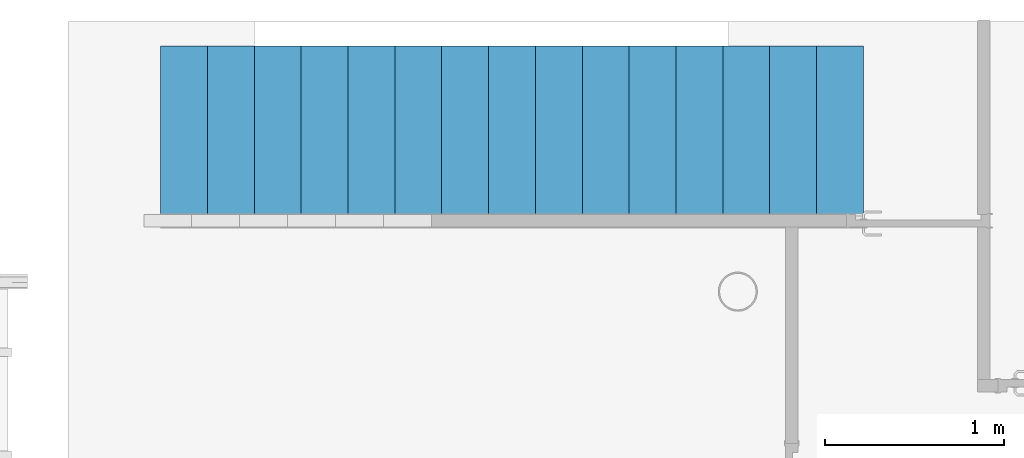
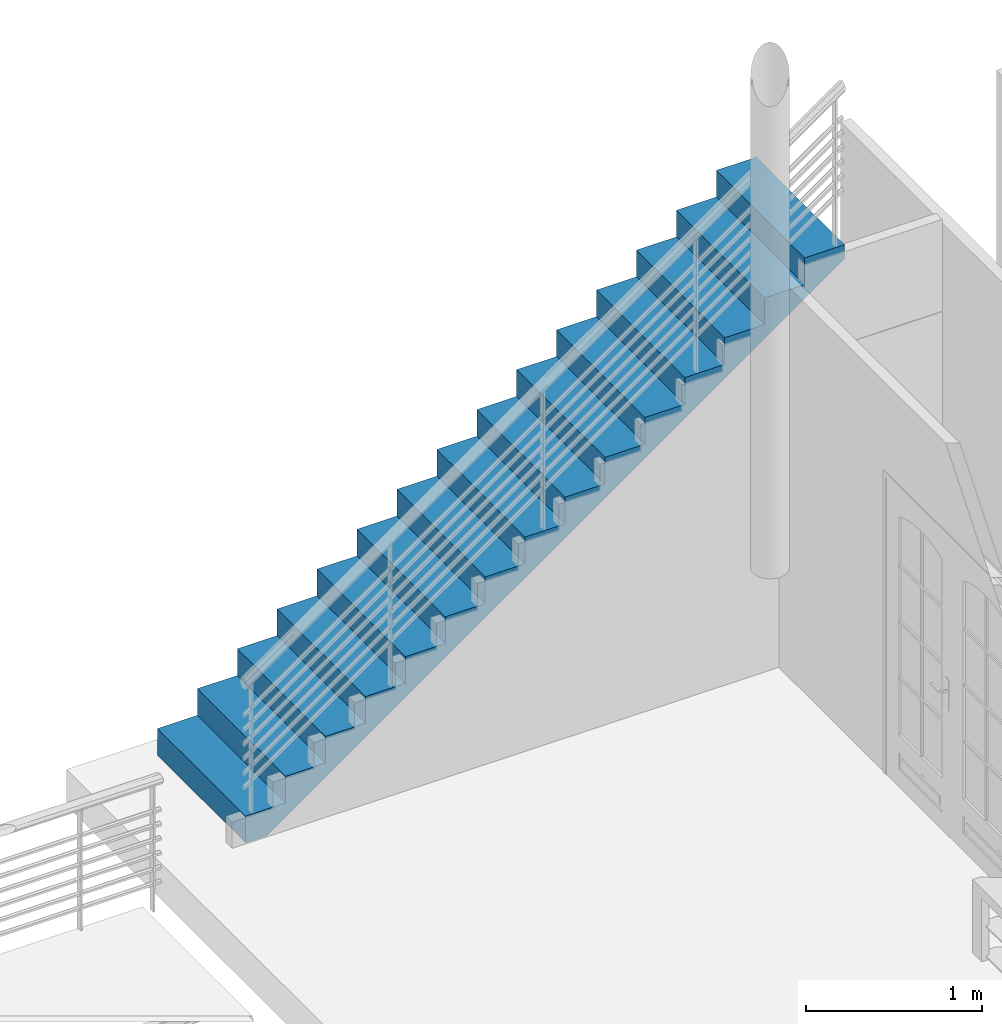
# One storey, part 10 of 15: 1 stair flight, 1 element without a shape of its own.
"""IFC2X3 building model written with IfcOpenShell, lengths in metres."""

from ifc_helpers import new_model, entity, si_unit, converted_unit, derived_unit, direction, frame, origin, place, context, subcontext, project, spatial, faceted_brep, material, type_object, element, aggregate, save


model = new_model("IFC2X3")

# Units and contexts
model_context = context("Model", 3, precision=1e-05, world=origin(), true_north=direction((6.12303176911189e-17, 1.0)))
body_context = subcontext(model_context, "Body", "Model", "MODEL_VIEW")
ifc_project = project(units=[si_unit("LENGTHUNIT", "METRE"), si_unit("AREAUNIT", "SQUARE_METRE"), si_unit("VOLUMEUNIT", "CUBIC_METRE"), converted_unit("PLANEANGLEUNIT", "DEGREE", entity("IfcRatioMeasure", 0.0174532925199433), si_unit("PLANEANGLEUNIT", "RADIAN"), dimensions=[0, 0, 0, 0, 0, 0, 0]), si_unit("MASSUNIT", "GRAM", prefix="KILO"), derived_unit("MASSDENSITYUNIT", [(si_unit("MASSUNIT", "GRAM", prefix="KILO"), 1), (si_unit("LENGTHUNIT", "METRE"), -3)]), derived_unit("MOMENTOFINERTIAUNIT", [(si_unit("LENGTHUNIT", "METRE"), 4)]), si_unit("TIMEUNIT", "SECOND"), si_unit("FREQUENCYUNIT", "HERTZ"), si_unit("THERMODYNAMICTEMPERATUREUNIT", "DEGREE_CELSIUS"), derived_unit("THERMALTRANSMITTANCEUNIT", [(si_unit("MASSUNIT", "GRAM", prefix="KILO"), 1), (si_unit("THERMODYNAMICTEMPERATUREUNIT", "KELVIN"), -1), (si_unit("TIMEUNIT", "SECOND"), -3)]), derived_unit("VOLUMETRICFLOWRATEUNIT", [(si_unit("LENGTHUNIT", "METRE"), 3), (si_unit("TIMEUNIT", "SECOND"), -1)]), si_unit("ELECTRICCURRENTUNIT", "AMPERE"), si_unit("ELECTRICVOLTAGEUNIT", "VOLT"), si_unit("POWERUNIT", "WATT"), si_unit("FORCEUNIT", "NEWTON", prefix="KILO"), si_unit("ILLUMINANCEUNIT", "LUX"), si_unit("LUMINOUSFLUXUNIT", "LUMEN"), si_unit("LUMINOUSINTENSITYUNIT", "CANDELA"), derived_unit("USERDEFINED", [(si_unit("MASSUNIT", "GRAM", prefix="KILO"), -1), (si_unit("LENGTHUNIT", "METRE"), -2), (si_unit("TIMEUNIT", "SECOND"), 3), (si_unit("LUMINOUSFLUXUNIT", "LUMEN"), 1)]), derived_unit("LINEARVELOCITYUNIT", [(si_unit("LENGTHUNIT", "METRE"), 1), (si_unit("TIMEUNIT", "SECOND"), -1)]), si_unit("PRESSUREUNIT", "PASCAL"), derived_unit("USERDEFINED", [(si_unit("LENGTHUNIT", "METRE"), -2), (si_unit("MASSUNIT", "GRAM", prefix="KILO"), 1), (si_unit("TIMEUNIT", "SECOND"), -2)]), derived_unit("LINEARFORCEUNIT", [(si_unit("MASSUNIT", "GRAM", prefix="KILO"), 1), (si_unit("LENGTHUNIT", "METRE"), 1), (si_unit("TIMEUNIT", "SECOND"), -2), (si_unit("LENGTHUNIT", "METRE"), -1)]), derived_unit("PLANARFORCEUNIT", [(si_unit("MASSUNIT", "GRAM", prefix="KILO"), 1), (si_unit("LENGTHUNIT", "METRE"), 1), (si_unit("TIMEUNIT", "SECOND"), -2), (si_unit("LENGTHUNIT", "METRE"), -2)])], contexts=[model_context])

# Site, building, storey
site_placement = place(None, origin())
site = spatial("IfcSite", under=ifc_project, at=site_placement, Name="Surface", CompositionType="ELEMENT")
building_placement = place(site_placement, origin())
building = spatial("IfcBuilding", under=site, at=building_placement, CompositionType="ELEMENT")
storey_placement = place(building_placement, frame((0.0, 0.0, 2.65)))
storey = spatial("IfcBuildingStorey", under=building, at=storey_placement, Name="Niveau étage", CompositionType="ELEMENT", Elevation=2.65)

# Stair, stair flight
stair_placement = place(storey_placement, origin())
stair = element("IfcStair", 1, at=stair_placement, inside=storey, Name="Escalier coulé sur place:Escalier", ObjectType="Escalier coulé sur place:Monobloc", ShapeType="STRAIGHT_RUN_STAIR")
ifc_material = material(Name="Maçonnerie - Béton")
stair_flight_type = type_object("IfcStairFlightType", Name="Volée monobloc:Profondeur de structure 80 mm", PredefinedType="STRAIGHT")
stair_flight_placement = place(stair_placement, frame((2.40601672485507, 5.86379665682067, 0.0)))
stair_flight = element("IfcStairFlight", 2, at=stair_flight_placement, type_object=stair_flight_type, material=ifc_material, Name="Escalier coulé sur place:Escalier:259242 Run 1", ObjectType="Volée monobloc:Profondeur de structure 80 mm", NumberOfRiser=16, NumberOfTreads=15, RiserHeight=0.604904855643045, TreadLength=0.857119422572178, context=body_context, shape_type="Brep", body=[
    faceted_brep([(0.26125, 1.0, 0.184375), (0.0, 1.0, 0.184375), (0.0, 0.0, 0.184375), (0.26125, 0.0, 0.184375), (0.26125, 1.0, 0.0864584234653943), (0.13874281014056, 1.0, 0.0), (0.0, 1.0, 0.0), (0.0, 0.0, 0.0), (0.13874281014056, 0.0, 0.0), (0.26125, 0.0, 0.0864584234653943), (0.5225, 1.0, 0.36875), (0.26125, 1.0, 0.36875), (0.26125, 0.0, 0.36875), (0.522499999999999, 0.0, 0.36875), (0.5225, 1.0, 0.270833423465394), (0.5225, 0.0, 0.270833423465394), (0.783749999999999, 1.0, 0.553125), (0.522499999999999, 1.0, 0.553125), (0.522499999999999, 0.0, 0.553125), (0.783749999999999, 0.0, 0.553125), (0.783749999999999, 1.0, 0.455208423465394), (0.783749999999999, 0.0, 0.455208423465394), (1.045, 1.0, 0.7375), (0.783749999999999, 1.0, 0.7375), (0.783749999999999, 0.0, 0.7375), (1.045, 0.0, 0.7375), (1.045, 1.0, 0.639583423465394), (1.045, 0.0, 0.639583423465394), (1.30625, 1.0, 0.921875), (1.045, 1.0, 0.921875), (1.045, 0.0, 0.921875), (1.30625, 0.0, 0.921875), (1.30625, 1.0, 0.823958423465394), (1.30625, 0.0, 0.823958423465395), (1.5675, 1.0, 1.10625), (1.30625, 1.0, 1.10625), (1.30625, 0.0, 1.10625), (1.5675, 0.0, 1.10625), (1.5675, 1.0, 1.00833342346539), (1.5675, 0.0, 1.00833342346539), (1.82875, 1.0, 1.290625), (1.5675, 1.0, 1.290625), (1.5675, 0.0, 1.290625), (1.82875, 0.0, 1.290625), (1.82875, 1.0, 1.19270842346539), (1.82875, 0.0, 1.19270842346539), (2.09, 1.0, 1.475), (1.82875, 1.0, 1.475), (1.82875, 0.0, 1.475), (2.09, 0.0, 1.475), (2.09, 1.0, 1.37708342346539), (2.09, 0.0, 1.37708342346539), (2.35125, 1.0, 1.659375), (2.09, 1.0, 1.659375), (2.09, 0.0, 1.659375), (2.35125, 0.0, 1.659375), (2.35125, 1.0, 1.56145842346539), (2.35125, 0.0, 1.56145842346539), (2.6125, 1.0, 1.84375), (2.35125, 1.0, 1.84375), (2.35125, 0.0, 1.84375), (2.6125, 0.0, 1.84375), (2.6125, 1.0, 1.74583342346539), (2.6125, 0.0, 1.74583342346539), (2.87375, 1.0, 2.028125), (2.6125, 1.0, 2.028125), (2.6125, 0.0, 2.028125), (2.87375, 0.0, 2.028125), (2.87375, 1.0, 1.93020842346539), (2.87375, 0.0, 1.93020842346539), (3.135, 1.0, 2.2125), (2.87375, 1.0, 2.2125), (2.87375, 0.0, 2.2125), (3.135, 0.0, 2.2125), (3.135, 1.0, 2.11458342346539), (3.135, 0.0, 2.11458342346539), (3.39625, 1.0, 2.396875), (3.135, 1.0, 2.396875), (3.135, 0.0, 2.396875), (3.39625, 0.0, 2.396875), (3.39625, 1.0, 2.2989584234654), (3.39625, 0.0, 2.2989584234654), (3.6575, 1.0, 2.58125), (3.39625, 1.0, 2.58125), (3.39625, 0.0, 2.58125), (3.6575, 0.0, 2.58125), (3.6575, 1.0, 2.48333342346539), (3.6575, 0.0, 2.48333342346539), (3.91875, 1.0, 2.765625), (3.6575, 1.0, 2.765625), (3.6575, 0.0, 2.765625), (3.91875, 0.0, 2.765625), (3.91875, 1.0, 2.66770842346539), (3.91875, 0.0, 2.66770842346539)], [[[0, 1, 2, 3]], [[1, 0, 4, 5, 6]], [[2, 1, 6, 7]], [[3, 2, 7, 8, 9]], [[10, 11, 12, 13]], [[11, 10, 14, 4, 0]], [[0, 3, 12, 11]], [[13, 12, 3, 9, 15]], [[16, 17, 18, 19]], [[17, 16, 20, 14, 10]], [[10, 13, 18, 17]], [[19, 18, 13, 15, 21]], [[22, 23, 24, 25]], [[23, 22, 26, 20, 16]], [[16, 19, 24, 23]], [[25, 24, 19, 21, 27]], [[28, 29, 30, 31]], [[29, 28, 32, 26, 22]], [[22, 25, 30, 29]], [[31, 30, 25, 27, 33]], [[34, 35, 36, 37]], [[35, 34, 38, 32, 28]], [[28, 31, 36, 35]], [[37, 36, 31, 33, 39]], [[40, 41, 42, 43]], [[41, 40, 44, 38, 34]], [[34, 37, 42, 41]], [[43, 42, 37, 39, 45]], [[46, 47, 48, 49]], [[47, 46, 50, 44, 40]], [[40, 43, 48, 47]], [[49, 48, 43, 45, 51]], [[52, 53, 54, 55]], [[53, 52, 56, 50, 46]], [[46, 49, 54, 53]], [[55, 54, 49, 51, 57]], [[58, 59, 60, 61]], [[59, 58, 62, 56, 52]], [[52, 55, 60, 59]], [[61, 60, 55, 57, 63]], [[64, 65, 66, 67]], [[65, 64, 68, 62, 58]], [[58, 61, 66, 65]], [[67, 66, 61, 63, 69]], [[70, 71, 72, 73]], [[71, 70, 74, 68, 64]], [[64, 67, 72, 71]], [[73, 72, 67, 69, 75]], [[76, 77, 78, 79]], [[77, 76, 80, 74, 70]], [[70, 73, 78, 77]], [[79, 78, 73, 75, 81]], [[82, 83, 84, 85]], [[83, 82, 86, 80, 76]], [[76, 79, 84, 83]], [[85, 84, 79, 81, 87]], [[88, 89, 90, 91]], [[89, 88, 92, 86, 82]], [[82, 85, 90, 89]], [[91, 90, 85, 87, 93]], [[88, 91, 93, 92]], [[7, 6, 5, 8]], [[8, 5, 4, 14, 20, 26, 32, 38, 44, 50, 56, 62, 68, 74, 80, 86, 92, 93, 87, 81, 75, 69, 63, 57, 51, 45, 39, 33, 27, 21, 15, 9]]]),
])
aggregate(stair, [stair_flight])

save(model, "model.ifc")
